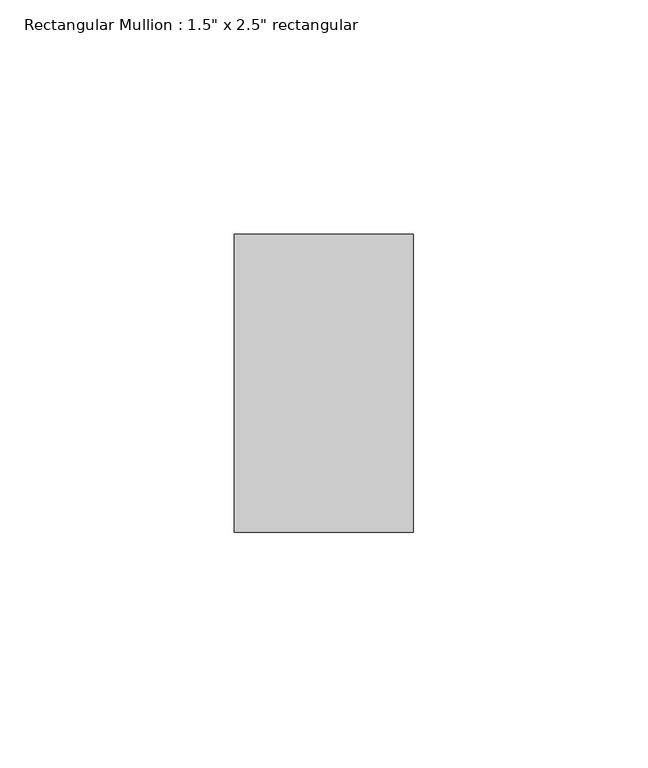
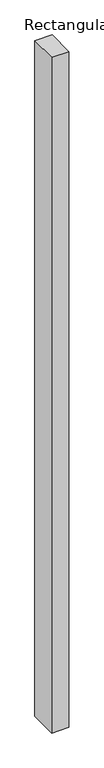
"""IFC4 building model written with IfcOpenShell, lengths in millimetres: member geometry."""

from ifc_helpers import new_model, si_unit, frame, origin, place, context, project, spatial, polyline, outline, extrude, source, transform, mapped, element, save


def member_a096cd44(model_context):
    return source(origin(), model_context, "Body", "SweptSolid", [
        extrude(outline(polyline([(0.0, 31.75), (0.0, -31.75), (-38.1, -31.75), (-38.1, 31.75), (0.0, 31.75)])), frame((0.0, 0.0, -1568.45), z_axis=(0.0, 0.0, 1.0), x_axis=(1.0, 0.0, 0.0)), (0.0, 0.0, 1.0), 1568.45),
    ])


if __name__ == "__main__":
    model = new_model("IFC4")
    model_context = context("Model", 3, world=origin())
    ifc_project = project(units=[si_unit("LENGTHUNIT", "METRE", prefix="MILLI")], contexts=[model_context])
    site = spatial("IfcSite", under=ifc_project)
    building = spatial("IfcBuilding", under=site)
    placement = place(None, origin())
    member_shape = member_a096cd44(model_context)
    element("IfcMember", 1, ObjectType="Rectangular Mullion : 1.5\" x 2.5\" rectangular", at=placement, inside=building, context=model_context, shape_type="MappedRepresentation", body=[
        mapped(member_shape, transform((0.0, 0.0, 0.0), x_axis=(1.0, 0.0, 0.0), y_axis=(0.0, 1.0, 0.0), z_axis=(0.0, 0.0, 1.0))),
    ])
    save(model, "model.ifc")
